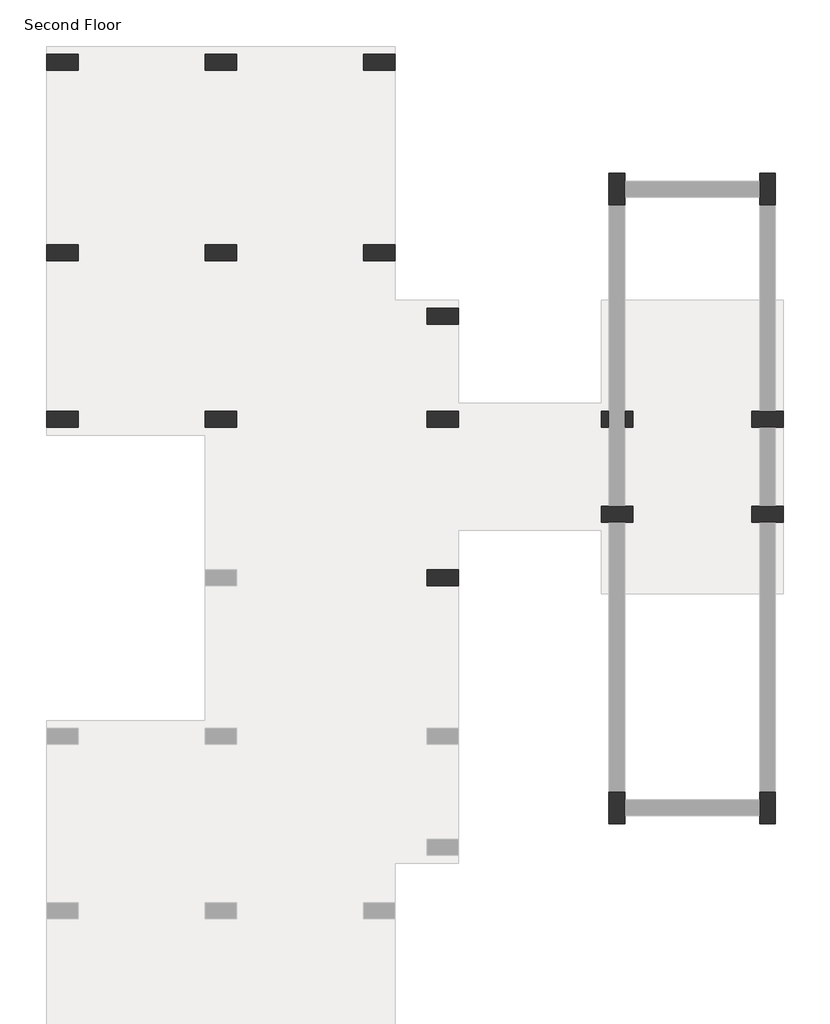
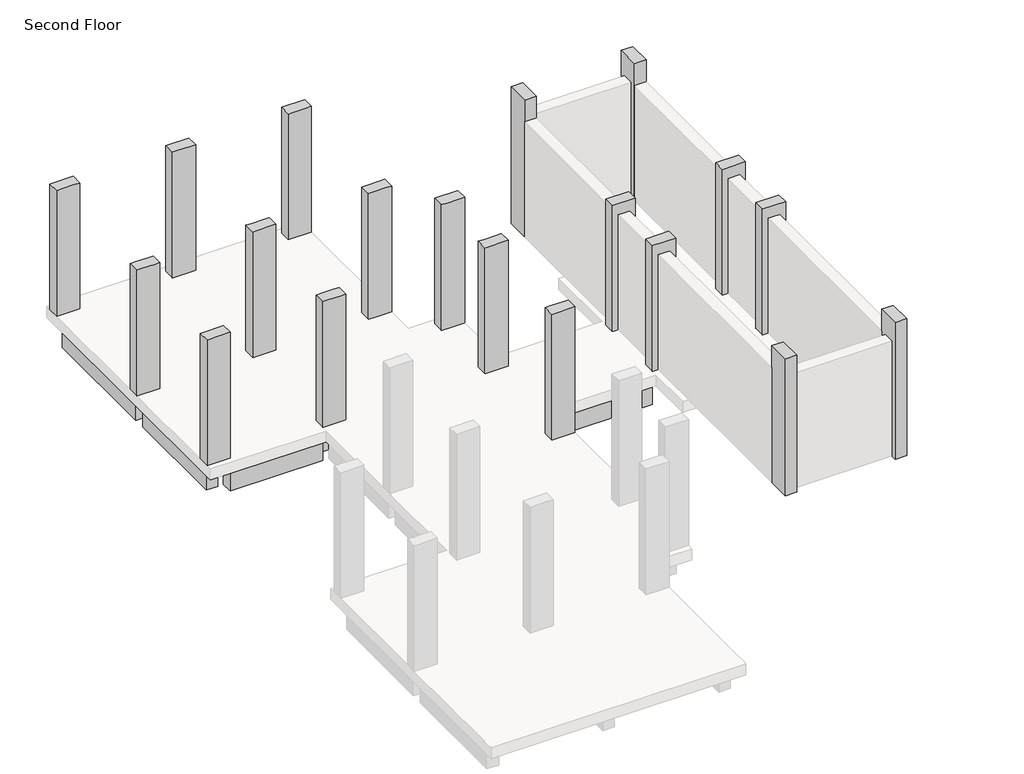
# One storey, part 2 of 2: 21 beams, 19 columns.
"""IFC4 building model written with IfcOpenShell, lengths in millimetres."""

from ifc_helpers import new_model, si_unit, frame, origin, place, context, project, spatial, polyline, outline, extrude, faceted_brep, element, save

model = new_model("IFC4")

# Units and contexts
model_context = context("Model", 3, world=origin())
ifc_project = project(units=[si_unit("LENGTHUNIT", "METRE", prefix="MILLI")], contexts=[model_context])

# Site, building, storey
site = spatial("IfcSite", under=ifc_project)
building = spatial("IfcBuilding", under=site)
storey = spatial("IfcBuildingStorey", under=building, Name="Second Floor", Elevation=3810.0)

# Beams
placement = place(None, origin())
element("IfcBeam", 1, ObjectType="Concrete-Rectangular Beam : 12 x 24", at=placement, inside=storey, context=model_context, shape_type="SweptSolid", body=[
    extrude(outline(polyline([(-12861.5073204, 23464.2572372), (-12861.5073204, 23769.0572372), (-10423.1073204, 23769.0572372), (-10423.1073204, 23464.2572372), (-12861.5073204, 23464.2572372)])), frame((0.0, 0.0, 2895.6), z_axis=(0.0, 0.0, 1.0), x_axis=(1.0, 0.0, 0.0)), (0.0, 0.0, 1.0), 609.6),
])
element("IfcBeam", 2, ObjectType="Concrete-Rectangular Beam : 12 x 24", at=placement, inside=storey, context=model_context, shape_type="SweptSolid", body=[
    extrude(outline(polyline([(-9813.5073204, 23464.2572372), (-9813.5073204, 23769.0572372), (-7375.1073204, 23769.0572372), (-7375.1073204, 23464.2572372), (-9813.5073204, 23464.2572372)])), frame((0.0, 0.0, 2895.6), z_axis=(0.0, 0.0, 1.0), x_axis=(1.0, 0.0, 0.0)), (0.0, 0.0, 1.0), 609.6),
])
element("IfcBeam", 3, ObjectType="Concrete-Rectangular Beam : 12 x 24", at=placement, inside=storey, context=model_context, shape_type="SweptSolid", body=[
    extrude(outline(polyline([(-7222.7073204, 23464.2572372), (-6917.9073204, 23464.2572372), (-6917.9073204, 20111.4572372), (-7222.7073204, 20111.4572372), (-7222.7073204, 23464.2572372)])), frame((0.0, 0.0, 2895.6), z_axis=(0.0, 0.0, 1.0), x_axis=(1.0, 0.0, 0.0)), (0.0, 0.0, 1.0), 609.6),
])
element("IfcBeam", 4, ObjectType="Concrete-Rectangular Beam : 12 x 24", at=placement, inside=storey, context=model_context, shape_type="SweptSolid", body=[
    extrude(outline(polyline([(-10270.7073204, 23464.2572372), (-9965.9073204, 23464.2572372), (-9965.9073204, 20111.4572372), (-10270.7073204, 20111.4572372), (-10270.7073204, 23464.2572372)])), frame((0.0, 0.0, 2895.6), z_axis=(0.0, 0.0, 1.0), x_axis=(1.0, 0.0, 0.0)), (0.0, 0.0, 1.0), 609.6),
])
element("IfcBeam", 5, ObjectType="Concrete-Rectangular Beam : 12 x 24", at=placement, inside=storey, context=model_context, shape_type="SweptSolid", body=[
    extrude(outline(polyline([(-13318.7073204, 23464.2572372), (-13013.9073204, 23464.2572372), (-13013.9073204, 20111.4572372), (-13318.7073204, 20111.4572372), (-13318.7073204, 23464.2572372)])), frame((0.0, 0.0, 2895.6), z_axis=(0.0, 0.0, 1.0), x_axis=(1.0, 0.0, 0.0)), (0.0, 0.0, 1.0), 609.6),
])
element("IfcBeam", 6, ObjectType="Concrete-Rectangular Beam : 12 x 24", at=placement, inside=storey, context=model_context, shape_type="SweptSolid", body=[
    extrude(outline(polyline([(-12861.5073204, 19806.6572372), (-12861.5073204, 20111.4572372), (-10423.1073204, 20111.4572372), (-10423.1073204, 19806.6572372), (-12861.5073204, 19806.6572372)])), frame((0.0, 0.0, 2895.6), z_axis=(0.0, 0.0, 1.0), x_axis=(1.0, 0.0, 0.0)), (0.0, 0.0, 1.0), 609.6),
])
element("IfcBeam", 7, ObjectType="Concrete-Rectangular Beam : 12 x 24", at=placement, inside=storey, context=model_context, shape_type="SweptSolid", body=[
    extrude(outline(polyline([(-9813.5073204, 19806.6572372), (-9813.5073204, 20111.4572372), (-7375.1073204, 20111.4572372), (-7375.1073204, 19806.6572372), (-9813.5073204, 19806.6572372)])), frame((0.0, 0.0, 2895.6), z_axis=(0.0, 0.0, 1.0), x_axis=(1.0, 0.0, 0.0)), (0.0, 0.0, 1.0), 609.6),
])
element("IfcBeam", 8, ObjectType="Concrete-Rectangular Beam : 12 x 24", at=placement, inside=storey, context=model_context, shape_type="SweptSolid", body=[
    extrude(outline(polyline([(-13318.7073204, 19806.6572372), (-13013.9073204, 19806.6572372), (-13013.9073204, 16911.0572372), (-13318.7073204, 16911.0572372), (-13318.7073204, 19806.6572372)])), frame((0.0, 0.0, 2895.6), z_axis=(0.0, 0.0, 1.0), x_axis=(1.0, 0.0, 0.0)), (0.0, 0.0, 1.0), 609.6),
])
element("IfcBeam", 9, ObjectType="Concrete-Rectangular Beam : 12 x 24", at=placement, inside=storey, context=model_context, shape_type="SweptSolid", body=[
    extrude(outline(polyline([(-10270.7073204, 19806.6572372), (-9965.9073204, 19806.6572372), (-9965.9073204, 16911.0572372), (-10270.7073204, 16911.0572372), (-10270.7073204, 19806.6572372)])), frame((0.0, 0.0, 2895.6), z_axis=(0.0, 0.0, 1.0), x_axis=(1.0, 0.0, 0.0)), (0.0, 0.0, 1.0), 609.6),
])
element("IfcBeam", 10, ObjectType="Concrete-Rectangular Beam : 12 x 24", at=placement, inside=storey, context=model_context, shape_type="Brep", body=[
    faceted_brep([(-6917.9073204, 19806.6572372, 3505.2), (-7222.7073204, 19806.6572372, 3505.2), (-7222.7073204, 18588.1999409, 3505.2), (-6917.9073204, 18588.1999409, 3505.2), (-6917.9073204, 18892.9999409, 3505.2), (-7222.7073204, 19806.6572372, 2895.6), (-7222.7073204, 18588.1999409, 2895.6), (-6917.9073204, 19806.6572372, 2895.6), (-6917.9073204, 18892.9999409, 2895.6), (-6917.9073204, 18588.1999409, 2895.6)], [[[0, 1, 2, 3, 4]], [[1, 5, 6, 2]], [[5, 7, 8, 9, 6]], [[3, 9, 8, 7, 0, 4]], [[0, 7, 5, 1]], [[3, 2, 6, 9]]]),
])
element("IfcBeam", 11, ObjectType="Concrete-Rectangular Beam : 12 x 24", at=placement, inside=storey, context=model_context, shape_type="SweptSolid", body=[
    extrude(outline(polyline([(-6917.9073204, 18588.1999409), (-6917.9073204, 18892.9999409), (-6156.6500241, 18892.9999409), (-6156.6500241, 18588.1999409), (-6917.9073204, 18588.1999409)])), frame((0.0, 0.0, 2895.6), z_axis=(0.0, 0.0, 1.0), x_axis=(1.0, 0.0, 0.0)), (0.0, 0.0, 1.0), 609.6),
])
element("IfcBeam", 12, ObjectType="Concrete-Rectangular Beam : 12 x 24", at=placement, inside=storey, context=model_context, shape_type="SweptSolid", body=[
    extrude(outline(polyline([(-6004.2500241, 18588.1999409), (-5699.4500241, 18588.1999409), (-5699.4500241, 16911.0572372), (-6004.2500241, 16911.0572372), (-6004.2500241, 18588.1999409)])), frame((0.0, 0.0, 2895.6), z_axis=(0.0, 0.0, 1.0), x_axis=(1.0, 0.0, 0.0)), (0.0, 0.0, 1.0), 609.6),
])
element("IfcBeam", 13, ObjectType="Concrete-Rectangular Beam : 12 x 24", at=placement, inside=storey, context=model_context, shape_type="SweptSolid", body=[
    extrude(outline(polyline([(-9813.5073204, 16606.2572372), (-9813.5073204, 16911.0572372), (-6156.6500241, 16911.0572372), (-6156.6500241, 16606.2572372), (-9813.5073204, 16606.2572372)])), frame((0.0, 0.0, 2895.6), z_axis=(0.0, 0.0, 1.0), x_axis=(1.0, 0.0, 0.0)), (0.0, 0.0, 1.0), 609.6),
])
element("IfcBeam", 14, ObjectType="Concrete-Rectangular Beam : 12 x 24", at=placement, inside=storey, context=model_context, shape_type="SweptSolid", body=[
    extrude(outline(polyline([(-12861.5073204, 16606.2572372), (-12861.5073204, 16911.0572372), (-10423.1073204, 16911.0572372), (-10423.1073204, 16606.2572372), (-12861.5073204, 16606.2572372)])), frame((0.0, 0.0, 2895.6), z_axis=(0.0, 0.0, 1.0), x_axis=(1.0, 0.0, 0.0)), (0.0, 0.0, 1.0), 609.6),
])
element("IfcBeam", 15, ObjectType="Concrete-Rectangular Beam : 12 x 24", at=placement, inside=storey, context=model_context, shape_type="SweptSolid", body=[
    extrude(outline(polyline([(-2803.8500241, 16911.0572372), (-2803.8500241, 16606.2572372), (-5547.0500241, 16606.2572372), (-5547.0500241, 16911.0572372), (-2803.8500241, 16911.0572372)])), frame((0.0, 0.0, 2895.6), z_axis=(0.0, 0.0, 1.0), x_axis=(1.0, 0.0, 0.0)), (0.0, 0.0, 1.0), 609.6),
])
element("IfcBeam", 16, ObjectType="Concrete-Rectangular Beam : 12 x 24", at=placement, inside=storey, context=model_context, shape_type="Brep", body=[
    faceted_brep([(-5699.4500241, 16606.2572372, 3505.2), (-6004.2500241, 16606.2572372, 3505.2), (-6004.2500241, 13863.0572372, 3505.2), (-5699.4500241, 13863.0572372, 3505.2), (-5699.4500241, 14777.4572372, 3505.2), (-5699.4500241, 15082.2572372, 3505.2), (-6004.2500241, 16606.2572372, 2895.6), (-6004.2500241, 13863.0572372, 2895.6), (-5699.4500241, 16606.2572372, 2895.6), (-5699.4500241, 15082.2572372, 2895.6), (-5699.4500241, 14777.4572372, 2895.6), (-5699.4500241, 13863.0572372, 2895.6)], [[[0, 1, 2, 3, 4, 5]], [[1, 6, 7, 2]], [[6, 8, 9, 10, 11, 7]], [[8, 0, 5, 4, 3, 11, 10, 9]], [[6, 1, 0, 8]], [[3, 2, 7, 11]]]),
])
element("IfcBeam", 17, ObjectType="Concrete-Rectangular Beam : 12 x 24", at=placement, inside=storey, context=model_context, shape_type="SweptSolid", body=[
    extrude(outline(polyline([(-2803.8500241, 15082.2572372), (-2803.8500241, 14777.4572372), (-5699.4500241, 14777.4572372), (-5699.4500241, 15082.2572372), (-2803.8500241, 15082.2572372)])), frame((0.0, 0.0, 2895.6), z_axis=(0.0, 0.0, 1.0), x_axis=(1.0, 0.0, 0.0)), (0.0, 0.0, 1.0), 609.6),
])
element("IfcBeam", 18, ObjectType="Concrete-Rectangular Beam : 12 x 24", at=placement, inside=storey, context=model_context, shape_type="SweptSolid", body=[
    extrude(outline(polyline([(-6156.6500241, 13863.0572372), (-6156.6500241, 13558.2572372), (-9813.5073204, 13558.2572372), (-9813.5073204, 13863.0572372), (-6156.6500241, 13863.0572372)])), frame((0.0, 0.0, 2895.6), z_axis=(0.0, 0.0, 1.0), x_axis=(1.0, 0.0, 0.0)), (0.0, 0.0, 1.0), 609.6),
])
element("IfcBeam", 19, ObjectType="Concrete-Rectangular Beam : 12 x 24", at=placement, inside=storey, context=model_context, shape_type="SweptSolid", body=[
    extrude(outline(polyline([(-5699.4500241, 10815.0572372), (-6004.2500241, 10815.0572372), (-6004.2500241, 13558.2572372), (-5699.4500241, 13558.2572372), (-5699.4500241, 10815.0572372)])), frame((0.0, 0.0, 2895.6), z_axis=(0.0, 0.0, 1.0), x_axis=(1.0, 0.0, 0.0)), (0.0, 0.0, 1.0), 609.6),
])
element("IfcBeam", 20, ObjectType="Concrete-Rectangular Beam : 12 x 24", at=placement, inside=storey, context=model_context, shape_type="SweptSolid", body=[
    extrude(outline(polyline([(-2194.2500241, 16606.2572372), (-2194.2500241, 16911.0572372), (89.9860546, 16911.0572372), (89.9860546, 16606.2572372), (-2194.2500241, 16606.2572372)])), frame((0.0, 0.0, 2895.6), z_axis=(0.0, 0.0, 1.0), x_axis=(1.0, 0.0, 0.0)), (0.0, 0.0, 1.0), 609.6),
])
element("IfcBeam", 21, ObjectType="Concrete-Rectangular Beam : 12 x 24", at=placement, inside=storey, context=model_context, shape_type="SweptSolid", body=[
    extrude(outline(polyline([(89.9860546, 15082.2572372), (89.9860546, 14777.4572372), (-2194.2500241, 14777.4572372), (-2194.2500241, 15082.2572372), (89.9860546, 15082.2572372)])), frame((0.0, 0.0, 2895.6), z_axis=(0.0, 0.0, 1.0), x_axis=(1.0, 0.0, 0.0)), (0.0, 0.0, 1.0), 609.6),
])

# Columns
element("IfcColumn", 22, ObjectType="Concrete-Rectangular-Column : 12 x 24", at=placement, inside=storey, context=model_context, shape_type="Brep", body=[
    faceted_brep([(-13471.1073204, 23769.0572372, 3810.0), (-12861.5073204, 23769.0572372, 3810.0), (-12861.5073204, 23464.2572372, 3810.0), (-13471.1073204, 23464.2572372, 3810.0), (-13471.1073204, 23769.0572372, 7315.2), (-12861.5073204, 23769.0572372, 7315.2), (-12861.5073204, 23769.0572372, 6705.6), (-12861.5073204, 23464.2572372, 7315.2), (-12861.5073204, 23464.2572372, 6705.6), (-13013.9073204, 23464.2572372, 7315.2), (-13318.7073204, 23464.2572372, 7315.2), (-13471.1073204, 23464.2572372, 7315.2)], [[[0, 1, 2, 3]], [[4, 5, 6, 1, 0]], [[5, 7, 8, 2, 1, 6]], [[7, 9, 10, 11, 3, 2, 8]], [[11, 4, 0, 3]], [[4, 11, 10, 9, 7, 5]]]),
])
element("IfcColumn", 23, ObjectType="Concrete-Rectangular-Column : 12 x 24", at=placement, inside=storey, context=model_context, shape_type="Brep", body=[
    faceted_brep([(-10423.1073204, 23769.0572372, 3810.0), (-9813.5073204, 23769.0572372, 3810.0), (-9813.5073204, 23464.2572372, 3810.0), (-10423.1073204, 23464.2572372, 3810.0), (-10423.1073204, 23769.0572372, 7315.2), (-9813.5073204, 23769.0572372, 7315.2), (-9813.5073204, 23769.0572372, 6705.6), (-10423.1073204, 23769.0572372, 6705.6), (-9813.5073204, 23464.2572372, 7315.2), (-9813.5073204, 23464.2572372, 6705.6), (-9965.9073204, 23464.2572372, 7315.2), (-10270.7073204, 23464.2572372, 7315.2), (-10423.1073204, 23464.2572372, 7315.2), (-10423.1073204, 23464.2572372, 6705.6)], [[[0, 1, 2, 3]], [[4, 5, 6, 1, 0, 7]], [[5, 8, 9, 2, 1, 6]], [[8, 10, 11, 12, 13, 3, 2, 9]], [[12, 4, 7, 0, 3, 13]], [[4, 12, 11, 10, 8, 5]]]),
])
element("IfcColumn", 24, ObjectType="Concrete-Rectangular-Column : 12 x 24", at=placement, inside=storey, context=model_context, shape_type="Brep", body=[
    faceted_brep([(-7375.1073204, 23769.0572372, 3810.0), (-6765.5073204, 23769.0572372, 3810.0), (-6765.5073204, 23464.2572372, 3810.0), (-7375.1073204, 23464.2572372, 3810.0), (-7375.1073204, 23769.0572372, 7315.2), (-6765.5073204, 23769.0572372, 7315.2), (-7375.1073204, 23769.0572372, 6705.6), (-6765.5073204, 23464.2572372, 7315.2), (-6917.9073204, 23464.2572372, 7315.2), (-7222.7073204, 23464.2572372, 7315.2), (-7375.1073204, 23464.2572372, 7315.2), (-7375.1073204, 23464.2572372, 6705.6)], [[[0, 1, 2, 3]], [[4, 5, 1, 0, 6]], [[5, 7, 2, 1]], [[7, 8, 9, 10, 11, 3, 2]], [[10, 4, 6, 0, 3, 11]], [[4, 10, 9, 8, 7, 5]]]),
])
element("IfcColumn", 25, ObjectType="Concrete-Rectangular-Column : 12 x 24", at=placement, inside=storey, context=model_context, shape_type="Brep", body=[
    faceted_brep([(-13471.1073204, 20111.4572372, 3810.0), (-12861.5073204, 20111.4572372, 3810.0), (-12861.5073204, 19806.6572372, 3810.0), (-13471.1073204, 19806.6572372, 3810.0), (-13471.1073204, 20111.4572372, 7315.2), (-13318.7073204, 20111.4572372, 7315.2), (-13013.9073204, 20111.4572372, 7315.2), (-12861.5073204, 20111.4572372, 7315.2), (-12861.5073204, 20111.4572372, 6705.6), (-12861.5073204, 19806.6572372, 7315.2), (-12861.5073204, 19806.6572372, 6705.6), (-13013.9073204, 19806.6572372, 7315.2), (-13318.7073204, 19806.6572372, 7315.2), (-13471.1073204, 19806.6572372, 7315.2)], [[[0, 1, 2, 3]], [[4, 5, 6, 7, 8, 1, 0]], [[7, 9, 10, 2, 1, 8]], [[9, 11, 12, 13, 3, 2, 10]], [[13, 4, 0, 3]], [[4, 13, 12, 11, 9, 7, 6, 5]]]),
])
element("IfcColumn", 26, ObjectType="Concrete-Rectangular-Column : 12 x 24", at=placement, inside=storey, context=model_context, shape_type="Brep", body=[
    faceted_brep([(-10423.1073204, 20111.4572372, 3810.0), (-9813.5073204, 20111.4572372, 3810.0), (-9813.5073204, 19806.6572372, 3810.0), (-10423.1073204, 19806.6572372, 3810.0), (-10423.1073204, 20111.4572372, 7315.2), (-10270.7073204, 20111.4572372, 7315.2), (-9965.9073204, 20111.4572372, 7315.2), (-9813.5073204, 20111.4572372, 7315.2), (-9813.5073204, 20111.4572372, 6705.6), (-10423.1073204, 20111.4572372, 6705.6), (-9813.5073204, 19806.6572372, 7315.2), (-9813.5073204, 19806.6572372, 6705.6), (-9965.9073204, 19806.6572372, 7315.2), (-10270.7073204, 19806.6572372, 7315.2), (-10423.1073204, 19806.6572372, 7315.2), (-10423.1073204, 19806.6572372, 6705.6)], [[[0, 1, 2, 3]], [[4, 5, 6, 7, 8, 1, 0, 9]], [[7, 10, 11, 2, 1, 8]], [[10, 12, 13, 14, 15, 3, 2, 11]], [[14, 4, 9, 0, 3, 15]], [[4, 14, 13, 12, 10, 7, 6, 5]]]),
])
element("IfcColumn", 27, ObjectType="Concrete-Rectangular-Column : 12 x 24", at=placement, inside=storey, context=model_context, shape_type="Brep", body=[
    faceted_brep([(-7375.1073204, 20111.4572372, 3810.0), (-6765.5073204, 20111.4572372, 3810.0), (-6765.5073204, 19806.6572372, 3810.0), (-7375.1073204, 19806.6572372, 3810.0), (-7375.1073204, 20111.4572372, 7315.2), (-7222.7073204, 20111.4572372, 7315.2), (-6917.9073204, 20111.4572372, 7315.2), (-6765.5073204, 20111.4572372, 7315.2), (-7375.1073204, 20111.4572372, 6705.6), (-6765.5073204, 19806.6572372, 7315.2), (-6917.9073204, 19806.6572372, 7315.2), (-7222.7073204, 19806.6572372, 7315.2), (-7375.1073204, 19806.6572372, 7315.2), (-7375.1073204, 19806.6572372, 6705.6)], [[[0, 1, 2, 3]], [[4, 5, 6, 7, 1, 0, 8]], [[7, 9, 2, 1]], [[9, 10, 11, 12, 13, 3, 2]], [[12, 4, 8, 0, 3, 13]], [[4, 12, 11, 10, 9, 7, 6, 5]]]),
])
element("IfcColumn", 28, ObjectType="Concrete-Rectangular-Column : 12 x 24", at=placement, inside=storey, context=model_context, shape_type="Brep", body=[
    faceted_brep([(-6156.6500241, 18892.9999409, 3810.0), (-5547.0500241, 18892.9999409, 3810.0), (-5547.0500241, 18588.1999409, 3810.0), (-6156.6500241, 18588.1999409, 3810.0), (-6156.6500241, 18892.9999409, 7315.2), (-5547.0500241, 18892.9999409, 7315.2), (-6156.6500241, 18892.9999409, 6705.6), (-5547.0500241, 18588.1999409, 7315.2), (-5699.4500241, 18588.1999409, 7315.2), (-6004.2500241, 18588.1999409, 7315.2), (-6156.6500241, 18588.1999409, 7315.2), (-6156.6500241, 18588.1999409, 6705.6)], [[[0, 1, 2, 3]], [[4, 5, 1, 0, 6]], [[5, 7, 2, 1]], [[7, 8, 9, 10, 11, 3, 2]], [[10, 4, 6, 0, 3, 11]], [[4, 10, 9, 8, 7, 5]]]),
])
element("IfcColumn", 29, ObjectType="Concrete-Rectangular-Column : 12 x 24", at=placement, inside=storey, context=model_context, shape_type="Brep", body=[
    faceted_brep([(-13471.1073204, 16911.0572372, 3810.0), (-12861.5073204, 16911.0572372, 3810.0), (-12861.5073204, 16606.2572372, 3810.0), (-13471.1073204, 16606.2572372, 3810.0), (-13471.1073204, 16911.0572372, 7315.2), (-13318.7073204, 16911.0572372, 7315.2), (-13013.9073204, 16911.0572372, 7315.2), (-12861.5073204, 16911.0572372, 7315.2), (-12861.5073204, 16911.0572372, 6705.6), (-12861.5073204, 16606.2572372, 7315.2), (-12861.5073204, 16606.2572372, 6705.6), (-13471.1073204, 16606.2572372, 7315.2)], [[[0, 1, 2, 3]], [[4, 5, 6, 7, 8, 1, 0]], [[7, 9, 10, 2, 1, 8]], [[9, 11, 3, 2, 10]], [[11, 4, 0, 3]], [[4, 11, 9, 7, 6, 5]]]),
])
element("IfcColumn", 30, ObjectType="Concrete-Rectangular-Column : 12 x 24", at=placement, inside=storey, context=model_context, shape_type="Brep", body=[
    faceted_brep([(-10423.1073204, 16911.0572372, 3810.0), (-9813.5073204, 16911.0572372, 3810.0), (-9813.5073204, 16606.2572372, 3810.0), (-10423.1073204, 16606.2572372, 3810.0), (-10423.1073204, 16911.0572372, 7315.2), (-10270.7073204, 16911.0572372, 7315.2), (-9965.9073204, 16911.0572372, 7315.2), (-9813.5073204, 16911.0572372, 7315.2), (-9813.5073204, 16911.0572372, 6705.6), (-10423.1073204, 16911.0572372, 6705.6), (-9813.5073204, 16606.2572372, 7315.2), (-9813.5073204, 16606.2572372, 6705.6), (-9965.9073204, 16606.2572372, 7315.2), (-10270.7073204, 16606.2572372, 7315.2), (-10423.1073204, 16606.2572372, 7315.2), (-10423.1073204, 16606.2572372, 6705.6)], [[[0, 1, 2, 3]], [[4, 5, 6, 7, 8, 1, 0, 9]], [[7, 10, 11, 2, 1, 8]], [[10, 12, 13, 14, 15, 3, 2, 11]], [[14, 4, 9, 0, 3, 15]], [[4, 14, 13, 12, 10, 7, 6, 5]]]),
])
element("IfcColumn", 31, ObjectType="Concrete-Rectangular-Column : 12 x 24", at=placement, inside=storey, context=model_context, shape_type="Brep", body=[
    faceted_brep([(-6156.6500241, 16911.0572372, 3810.0), (-5547.0500241, 16911.0572372, 3810.0), (-5547.0500241, 16606.2572372, 3810.0), (-6156.6500241, 16606.2572372, 3810.0), (-6156.6500241, 16911.0572372, 7315.2), (-6004.2500241, 16911.0572372, 7315.2), (-5699.4500241, 16911.0572372, 7315.2), (-5547.0500241, 16911.0572372, 7315.2), (-5547.0500241, 16911.0572372, 6705.6), (-6156.6500241, 16911.0572372, 6705.6), (-5547.0500241, 16606.2572372, 7315.2), (-5547.0500241, 16606.2572372, 6705.6), (-5699.4500241, 16606.2572372, 7315.2), (-6004.2500241, 16606.2572372, 7315.2), (-6156.6500241, 16606.2572372, 7315.2), (-6156.6500241, 16606.2572372, 6705.6)], [[[0, 1, 2, 3]], [[4, 5, 6, 7, 8, 1, 0, 9]], [[7, 10, 11, 2, 1, 8]], [[10, 12, 13, 14, 15, 3, 2, 11]], [[14, 4, 9, 0, 3, 15]], [[4, 14, 13, 12, 10, 7, 6, 5]]]),
])
element("IfcColumn", 32, ObjectType="Concrete-Rectangular-Column : 12 x 24", at=placement, inside=storey, context=model_context, shape_type="SweptSolid", body=[
    extrude(outline(polyline([(3810.0, -2346.6500241), (3810.0, -2194.2500241), (7315.2, -2194.2500241), (7315.2, -2803.8500241), (3810.0, -2803.8500241), (3810.0, -2651.4500241), (7010.4, -2651.4500241), (7010.4, -2346.6500241), (3810.0, -2346.6500241)])), frame((0.0, 16606.2572372, 0.0), z_axis=(0.0, 1.0, 0.0), x_axis=(0.0, 0.0, 1.0)), (0.0, 0.0, 1.0), 304.8),
])
element("IfcColumn", 33, ObjectType="Concrete-Rectangular-Column : 12 x 24", at=placement, inside=storey, context=model_context, shape_type="Brep", body=[
    faceted_brep([(89.9860546, 16911.0572372, 3810.0), (242.3860546, 16911.0572372, 3810.0), (547.1860546, 16911.0572372, 3810.0), (699.5860546, 16911.0572372, 3810.0), (699.5860546, 16606.2572372, 3810.0), (547.1860546, 16606.2572372, 3810.0), (242.3860546, 16606.2572372, 3810.0), (89.9860546, 16606.2572372, 3810.0), (89.9860546, 16911.0572372, 7315.2), (699.5860546, 16911.0572372, 7315.2), (699.5860546, 16606.2572372, 7315.2), (89.9860546, 16606.2572372, 7315.2)], [[[0, 1, 2, 3, 4, 5, 6, 7]], [[3, 2, 1, 0, 8, 9]], [[4, 3, 9, 10]], [[7, 6, 5, 4, 10, 11]], [[0, 7, 11, 8]], [[9, 8, 11, 10]]]),
])
element("IfcColumn", 34, ObjectType="Concrete-Rectangular-Column : 12 x 24", at=placement, inside=storey, context=model_context, shape_type="Brep", body=[
    faceted_brep([(89.9860546, 15082.2572372, 3810.0), (242.3860546, 15082.2572372, 3810.0), (547.1860546, 15082.2572372, 3810.0), (699.5860546, 15082.2572372, 3810.0), (699.5860546, 14777.4572372, 3810.0), (547.1860546, 14777.4572372, 3810.0), (242.3860546, 14777.4572372, 3810.0), (89.9860546, 14777.4572372, 3810.0), (89.9860546, 15082.2572372, 7315.2), (699.5860546, 15082.2572372, 7315.2), (699.5860546, 14777.4572372, 7315.2), (89.9860546, 14777.4572372, 7315.2)], [[[0, 1, 2, 3, 4, 5, 6, 7]], [[3, 2, 1, 0, 8, 9]], [[4, 3, 9, 10]], [[7, 6, 5, 4, 10, 11]], [[0, 7, 11, 8]], [[9, 8, 11, 10]]]),
])
element("IfcColumn", 35, ObjectType="Concrete-Rectangular-Column : 12 x 24", at=placement, inside=storey, context=model_context, shape_type="Brep", body=[
    faceted_brep([(-2803.8500241, 15082.2572372, 3810.0), (-2651.4500241, 15082.2572372, 3810.0), (-2346.6500241, 15082.2572372, 3810.0), (-2194.2500241, 15082.2572372, 3810.0), (-2194.2500241, 14777.4572372, 3810.0), (-2346.6500241, 14777.4572372, 3810.0), (-2651.4500241, 14777.4572372, 3810.0), (-2803.8500241, 14777.4572372, 3810.0), (-2803.8500241, 15082.2572372, 7315.2), (-2194.2500241, 15082.2572372, 7315.2), (-2194.2500241, 14777.4572372, 7315.2), (-2803.8500241, 14777.4572372, 7315.2)], [[[0, 1, 2, 3, 4, 5, 6, 7]], [[3, 2, 1, 0, 8, 9]], [[4, 3, 9, 10]], [[7, 6, 5, 4, 10, 11]], [[0, 7, 11, 8]], [[9, 8, 11, 10]]]),
])
element("IfcColumn", 36, ObjectType="Concrete-Rectangular-Column : 12 x 24", at=placement, inside=storey, context=model_context, shape_type="Brep", body=[
    faceted_brep([(-6156.6500241, 13863.0572372, 3810.0), (-5547.0500241, 13863.0572372, 3810.0), (-5547.0500241, 13558.2572372, 3810.0), (-6156.6500241, 13558.2572372, 3810.0), (-6156.6500241, 13863.0572372, 7315.2), (-6004.2500241, 13863.0572372, 7315.2), (-5699.4500241, 13863.0572372, 7315.2), (-5547.0500241, 13863.0572372, 7315.2), (-6156.6500241, 13863.0572372, 6705.6), (-5547.0500241, 13558.2572372, 7315.2), (-5699.4500241, 13558.2572372, 7315.2), (-6004.2500241, 13558.2572372, 7315.2), (-6156.6500241, 13558.2572372, 7315.2), (-6156.6500241, 13558.2572372, 6705.6)], [[[0, 1, 2, 3]], [[4, 5, 6, 7, 1, 0, 8]], [[7, 9, 2, 1]], [[9, 10, 11, 12, 13, 3, 2]], [[12, 4, 8, 0, 3, 13]], [[4, 12, 11, 10, 9, 7, 6, 5]]]),
])
element("IfcColumn", 37, ObjectType="Concrete-Rectangular-Column : 12 x 24", at=placement, inside=storey, context=model_context, shape_type="Brep", body=[
    faceted_brep([(-2346.6500241, 21483.0572372, 3810.0), (-2346.6500241, 21330.6572372, 3810.0), (-2346.6500241, 21025.8572372, 3810.0), (-2346.6500241, 20873.4572372, 3810.0), (-2651.4500241, 20873.4572372, 3810.0), (-2651.4500241, 21483.0572372, 3810.0), (-2346.6500241, 21483.0572372, 7620.0), (-2346.6500241, 20873.4572372, 7620.0), (-2346.6500241, 20873.4572372, 7010.4), (-2651.4500241, 20873.4572372, 7620.0), (-2651.4500241, 20873.4572372, 7010.4), (-2651.4500241, 21483.0572372, 7620.0)], [[[0, 1, 2, 3, 4, 5]], [[6, 7, 8, 3, 2, 1, 0]], [[7, 9, 10, 4, 3, 8]], [[9, 11, 5, 4, 10]], [[11, 6, 0, 5]], [[6, 11, 9, 7]]]),
])
element("IfcColumn", 38, ObjectType="Concrete-Rectangular-Column : 12 x 24", at=placement, inside=storey, context=model_context, shape_type="Brep", body=[
    faceted_brep([(547.1860546, 21483.0572372, 3810.0), (547.1860546, 20873.4572372, 3810.0), (242.3860546, 20873.4572372, 3810.0), (242.3860546, 21025.8572372, 3810.0), (242.3860546, 21330.6572372, 3810.0), (242.3860546, 21483.0572372, 3810.0), (547.1860546, 21483.0572372, 7620.0), (547.1860546, 20873.4572372, 7620.0), (547.1860546, 20873.4572372, 7010.4), (242.3860546, 20873.4572372, 7620.0), (242.3860546, 20873.4572372, 7010.4), (242.3860546, 21483.0572372, 7620.0)], [[[0, 1, 2, 3, 4, 5]], [[6, 7, 8, 1, 0]], [[7, 9, 10, 2, 1, 8]], [[9, 11, 5, 4, 3, 2, 10]], [[11, 6, 0, 5]], [[6, 11, 9, 7]]]),
])
element("IfcColumn", 39, ObjectType="Concrete-Rectangular-Column : 12 x 24", at=placement, inside=storey, context=model_context, shape_type="Brep", body=[
    faceted_brep([(-2346.6500241, 9595.8572372, 3810.0), (-2346.6500241, 9443.4572372, 3810.0), (-2346.6500241, 9138.6572372, 3810.0), (-2346.6500241, 8986.2572372, 3810.0), (-2651.4500241, 8986.2572372, 3810.0), (-2651.4500241, 9595.8572372, 3810.0), (-2346.6500241, 9595.8572372, 7620.0), (-2346.6500241, 8986.2572372, 7620.0), (-2346.6500241, 9595.8572372, 7010.4), (-2651.4500241, 8986.2572372, 7620.0), (-2651.4500241, 9595.8572372, 7620.0), (-2651.4500241, 9595.8572372, 7010.4)], [[[0, 1, 2, 3, 4, 5]], [[6, 7, 3, 2, 1, 0, 8]], [[7, 9, 4, 3]], [[9, 10, 11, 5, 4]], [[10, 6, 8, 0, 5, 11]], [[6, 10, 9, 7]]]),
])
element("IfcColumn", 40, ObjectType="Concrete-Rectangular-Column : 12 x 24", at=placement, inside=storey, context=model_context, shape_type="Brep", body=[
    faceted_brep([(547.1860546, 9595.8572372, 3810.0), (547.1860546, 8986.2572372, 3810.0), (242.3860546, 8986.2572372, 3810.0), (242.3860546, 9138.6572372, 3810.0), (242.3860546, 9443.4572372, 3810.0), (242.3860546, 9595.8572372, 3810.0), (547.1860546, 9595.8572372, 7620.0), (547.1860546, 8986.2572372, 7620.0), (547.1860546, 9595.8572372, 7010.4), (242.3860546, 8986.2572372, 7620.0), (242.3860546, 9595.8572372, 7620.0), (242.3860546, 9595.8572372, 7010.4)], [[[0, 1, 2, 3, 4, 5]], [[6, 7, 1, 0, 8]], [[7, 9, 2, 1]], [[9, 10, 11, 5, 4, 3, 2]], [[10, 6, 8, 0, 5, 11]], [[6, 10, 9, 7]]]),
])

save(model, "model.ifc")
